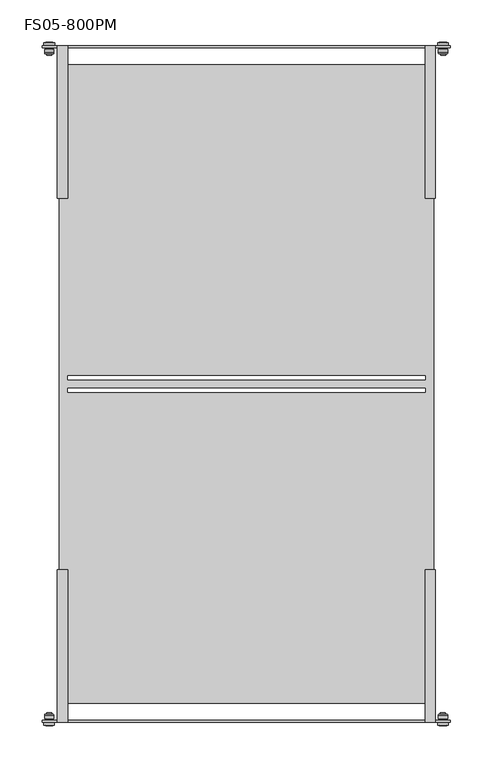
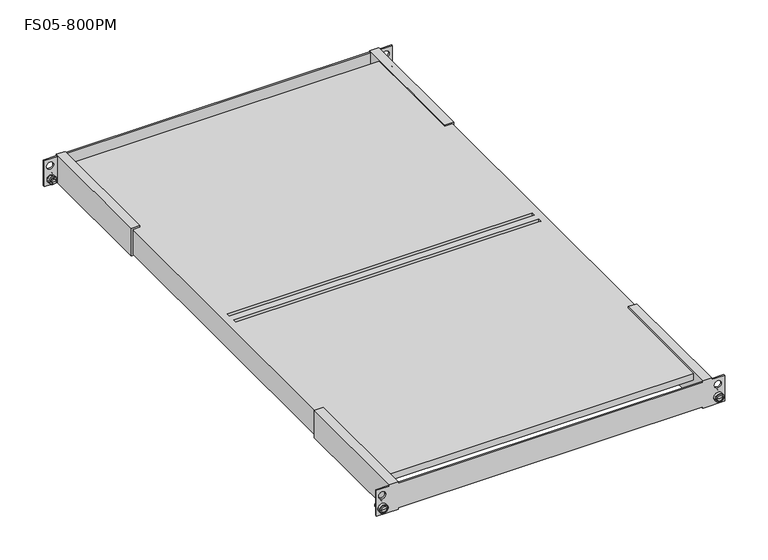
"""IFC4 building model written with IfcOpenShell, lengths in millimetres: proxy geometry, Полки стационарные усиленные : FS05-800PM."""

from ifc_helpers import new_model, si_unit, point, frame, origin, place, context, project, spatial, polyline, circle_curve, ellipse_curve, trimmed, source, transform, mapped, element, save
from ifc_brep_helpers import plane_surface, cylinder_surface, revolved_surface, advanced_brep


def fs05_800pm_aac56196(model_context):
    return source(origin(), model_context, "Body", "AdvancedBrep", [
        advanced_brep(
        [(232.5819993, -404.3499926, 10.0), (236.0759317, -404.3499926, 10.0), (229.0880669, -404.3499926, 10.0), (229.5820007, -388.7499968, 10.0), (235.5819979, -388.7499968, 10.0), (232.5819993, -388.7499968, 10.0), (229.5820007, -390.7999942, 10.0), (235.5819979, -390.7999942, 10.0), (228.0787333, -390.7999942, 10.0), (237.0852653, -390.7999942, 10.0), (227.082003, -391.7967245, 10.0), (238.0819955, -391.7967245, 10.0), (227.082003, -395.8, 10.0), (238.0819955, -395.8, 10.0), (228.4086476, -398.0, 10.0), (236.755351, -398.0, 10.0), (228.4086476, -400.0, 10.0), (236.755351, -400.0, 10.0), (226.3319978, -400.0, 10.0), (238.8320008, -400.0, 10.0), (226.3319978, -403.5000006, 10.0), (238.8320008, -403.5000006, 10.0), (227.2038342, -403.5000006, 10.0), (237.9601644, -403.5000006, 10.0)],
        [
            (0, 1),
            (1, 2, circle_curve(frame((232.5819993, -404.3499926, 10.0), z_axis=(0.0, -1.0, 0.0), x_axis=(1.0, 0.0, 0.0)), 3.4939324)),
            (2, 0),
            (2, 1, circle_curve(frame((232.5819993, -404.3499926, 10.0), z_axis=(0.0, -1.0, 0.0), x_axis=(1.0, 0.0, 0.0)), 3.4939324)),
            (3, 4, circle_curve(frame((232.5819993, -388.7499968, 10.0), z_axis=(0.0, 1.0, 0.0), x_axis=(1.0, 0.0, 0.0)), 2.9999986)),
            (4, 5),
            (5, 3),
            (4, 3, circle_curve(frame((232.5819993, -388.7499968, 10.0), z_axis=(0.0, 1.0, 0.0), x_axis=(1.0, 0.0, 0.0)), 2.9999986)),
            (6, 7, circle_curve(frame((232.5819993, -390.7999942, 10.0), z_axis=(0.0, 1.0, 0.0), x_axis=(1.0, 0.0, 0.0)), 2.9999986)),
            (7, 4),
            (3, 6),
            (7, 6, circle_curve(frame((232.5819993, -390.7999942, 10.0), z_axis=(0.0, 1.0, 0.0), x_axis=(1.0, 0.0, 0.0)), 2.9999986)),
            (8, 9, circle_curve(frame((232.5819993, -390.7999942, 10.0), z_axis=(0.0, 1.0, 0.0), x_axis=(1.0, 0.0, 0.0)), 4.503266)),
            (9, 7),
            (6, 8),
            (9, 8, circle_curve(frame((232.5819993, -390.7999942, 10.0), z_axis=(0.0, 1.0, 0.0), x_axis=(1.0, 0.0, 0.0)), 4.503266)),
            (10, 11, circle_curve(frame((232.5819993, -391.7967245, 10.0), z_axis=(0.0, 1.0, 0.0), x_axis=(1.0, 0.0, 0.0)), 5.4999962)),
            (11, 9, circle_curve(frame((237.0852653, -391.7967245, 10.0), z_axis=(0.0, 0.0, 1.0), x_axis=(-1.0, 0.0, 0.0)), 0.9967303)),
            (8, 10, circle_curve(frame((228.0787333, -391.7967245, 10.0), z_axis=(0.0, 0.0, 1.0), x_axis=(1.0, 0.0, 0.0)), 0.9967303)),
            (11, 10, circle_curve(frame((232.5819993, -391.7967245, 10.0), z_axis=(0.0, 1.0, 0.0), x_axis=(1.0, 0.0, 0.0)), 5.4999962)),
            (12, 13, circle_curve(frame((232.5819993, -395.8, 10.0), z_axis=(0.0, 1.0, 0.0), x_axis=(1.0, 0.0, 0.0)), 5.4999962)),
            (13, 11),
            (10, 12),
            (13, 12, circle_curve(frame((232.5819993, -395.8, 10.0), z_axis=(0.0, 1.0, 0.0), x_axis=(1.0, 0.0, 0.0)), 5.4999962)),
            (14, 15, circle_curve(frame((232.5819993, -398.0, 10.0), z_axis=(0.0, 1.0, 0.0), x_axis=(1.0, 0.0, 0.0)), 4.1733517)),
            (15, 13, circle_curve(frame((238.0820009, -397.3, 10.0), z_axis=(0.0, 0.0, -1.0), x_axis=(-1.0, 0.0, 0.0)), 1.5)),
            (12, 14, circle_curve(frame((227.0819977, -397.3, 10.0), z_axis=(0.0, 0.0, -1.0), x_axis=(1.0, 0.0, 0.0)), 1.5)),
            (15, 14, circle_curve(frame((232.5819993, -398.0, 10.0), z_axis=(0.0, 1.0, 0.0), x_axis=(1.0, 0.0, 0.0)), 4.1733517)),
            (16, 17, circle_curve(frame((232.5819993, -400.0, 10.0), z_axis=(0.0, 1.0, 0.0), x_axis=(1.0, 0.0, 0.0)), 4.1733517)),
            (17, 15),
            (14, 16),
            (17, 16, circle_curve(frame((232.5819993, -400.0, 10.0), z_axis=(0.0, 1.0, 0.0), x_axis=(1.0, 0.0, 0.0)), 4.1733517)),
            (18, 19, circle_curve(frame((232.5819993, -400.0, 10.0), z_axis=(0.0, 1.0, 0.0), x_axis=(1.0, 0.0, 0.0)), 6.2500015)),
            (19, 17),
            (16, 18),
            (19, 18, circle_curve(frame((232.5819993, -400.0, 10.0), z_axis=(0.0, 1.0, 0.0), x_axis=(1.0, 0.0, 0.0)), 6.2500015)),
            (20, 21, circle_curve(frame((232.5819993, -403.5000006, 10.0), z_axis=(0.0, 1.0, 0.0), x_axis=(1.0, 0.0, 0.0)), 6.2500015)),
            (21, 19),
            (18, 20),
            (21, 20, circle_curve(frame((232.5819993, -403.5000006, 10.0), z_axis=(0.0, 1.0, 0.0), x_axis=(1.0, 0.0, 0.0)), 6.2500015)),
            (22, 23, circle_curve(frame((232.5819993, -403.5000006, 10.0), z_axis=(0.0, 1.0, 0.0), x_axis=(1.0, 0.0, 0.0)), 5.3781651)),
            (23, 21),
            (20, 22),
            (23, 22, circle_curve(frame((232.5819993, -403.5000006, 10.0), z_axis=(0.0, 1.0, 0.0), x_axis=(1.0, 0.0, 0.0)), 5.3781651)),
            (1, 23, circle_curve(frame((236.0820009, -401.85, 10.0), z_axis=(0.0, 0.0, 1.0), x_axis=(-1.0, 0.0, 0.0)), 2.5)),
            (22, 2, circle_curve(frame((229.0819977, -401.85, 10.0), z_axis=(0.0, 0.0, 1.0), x_axis=(1.0, 0.0, 0.0)), 2.5)),
        ],
        [
            plane_surface(frame((232.5819993, -404.3499926, 10.0), z_axis=(0.0, -1.0, 0.0), x_axis=(1.0, 0.0, 0.0))),
            plane_surface(frame((232.5819993, -388.7499968, 10.0), z_axis=(0.0, 1.0, 0.0), x_axis=(1.0, 0.0, 0.0))),
            cylinder_surface(frame((232.5819993, 2209.0581012, 10.0), z_axis=(0.0, -1.0, 0.0), x_axis=(1.0, 0.0, 0.0)), 2.9999986),
            plane_surface(frame((232.5819993, -390.7999942, 10.0), z_axis=(0.0, 1.0, 0.0), x_axis=(1.0, 0.0, 0.0))),
            revolved_surface(trimmed(ellipse_curve(frame((237.0852653, -391.7967245, 10.0), z_axis=(0.0, 0.0, -1.0), x_axis=(-1.0, 0.0, 0.0)), 0.9967303, 0.9967303), [point((237.0852653, -390.7999942, 10.0))], [point((238.0819955, -391.7967245, 10.0))], True, "CARTESIAN"), (232.5819993, 2209.0581012, 10.0), (0.0, -1.0, 0.0)),
            cylinder_surface(frame((232.5819993, 2209.0581012, 10.0), z_axis=(0.0, -1.0, 0.0), x_axis=(1.0, 0.0, 0.0)), 5.4999962),
            revolved_surface(trimmed(ellipse_curve(frame((238.0820009, -397.3, 10.0), z_axis=(0.0, 0.0, 1.0), x_axis=(-1.0, 0.0, 0.0)), 1.5, 1.5), [point((238.0819955, -395.8, 10.0))], [point((236.755351, -398.0, 10.0))], True, "CARTESIAN"), (232.5819993, 2209.0581012, 10.0), (0.0, -1.0, 0.0)),
            cylinder_surface(frame((232.5819993, 2209.0581012, 10.0), z_axis=(0.0, -1.0, 0.0), x_axis=(1.0, 0.0, 0.0)), 4.1733517),
            plane_surface(frame((232.5819993, -400.0, 10.0), z_axis=(0.0, 1.0, 0.0), x_axis=(1.0, 0.0, 0.0))),
            cylinder_surface(frame((232.5819993, 2209.0581012, 10.0), z_axis=(0.0, -1.0, 0.0), x_axis=(1.0, 0.0, 0.0)), 6.2500015),
            plane_surface(frame((232.5819993, -403.5000006, 10.0), z_axis=(0.0, -1.0, 0.0), x_axis=(1.0, 0.0, 0.0))),
            revolved_surface(trimmed(ellipse_curve(frame((236.0820009, -401.85, 10.0), z_axis=(0.0, 0.0, -1.0), x_axis=(-1.0, 0.0, 0.0)), 2.5, 2.5), [point((237.9601644, -403.5000006, 10.0))], [point((236.0759317, -404.3499926, 10.0))], True, "CARTESIAN"), (232.5819993, 2209.0581012, 10.0), (0.0, -1.0, 0.0)),
        ],
        [
            (0, [[1, 2, 3]]),
            (0, [[-3, 4, -1]]),
            (1, [[5, 6, 7]]),
            (1, [[8, -7, -6]]),
            (2, [[9, 10, -5, 11]]),
            (2, [[12, -11, -8, -10]]),
            (3, [[13, 14, -9, 15]]),
            (3, [[16, -15, -12, -14]]),
            (4, [[17, 18, -13, 19]]),
            (4, [[20, -19, -16, -18]]),
            (5, [[21, 22, -17, 23]]),
            (5, [[24, -23, -20, -22]]),
            (6, [[25, 26, -21, 27]]),
            (6, [[28, -27, -24, -26]]),
            (7, [[29, 30, -25, 31]]),
            (7, [[32, -31, -28, -30]]),
            (8, [[33, 34, -29, 35]]),
            (8, [[36, -35, -32, -34]]),
            (9, [[37, 38, -33, 39]]),
            (9, [[40, -39, -36, -38]]),
            (10, [[41, 42, -37, 43]]),
            (10, [[44, -43, -40, -42]]),
            (11, [[-2, 45, -41, 46]]),
            (11, [[-4, -46, -44, -45]]),
        ],
    ),
        advanced_brep(
        [(-233.3319993, -404.3499926, 10.0), (-229.8380669, -404.3499926, 10.0), (-236.8259317, -404.3499926, 10.0), (-230.3320007, -388.7499968, 10.0), (-233.3319993, -388.7499968, 10.0), (-236.3319979, -388.7499968, 10.0), (-230.3320007, -390.7999942, 10.0), (-236.3319979, -390.7999942, 10.0), (-228.8287333, -390.7999942, 10.0), (-237.8352653, -390.7999942, 10.0), (-227.832003, -391.7967245, 10.0), (-238.8319955, -391.7967245, 10.0), (-227.832003, -395.8, 10.0), (-238.8319955, -395.8, 10.0), (-229.1586476, -398.0, 10.0), (-237.505351, -398.0, 10.0), (-229.1586476, -400.0, 10.0), (-237.505351, -400.0, 10.0), (-227.0819978, -400.0, 10.0), (-239.5820008, -400.0, 10.0), (-227.0819978, -403.5000006, 10.0), (-239.5820008, -403.5000006, 10.0), (-227.9538342, -403.5000006, 10.0), (-238.7101644, -403.5000006, 10.0)],
        [
            (0, 1),
            (1, 2, circle_curve(frame((-233.3319993, -404.3499926, 10.0), z_axis=(0.0, -1.0, 0.0), x_axis=(-1.0, 0.0, 0.0)), 3.4939324)),
            (2, 0),
            (2, 1, circle_curve(frame((-233.3319993, -404.3499926, 10.0), z_axis=(0.0, -1.0, 0.0), x_axis=(-1.0, 0.0, 0.0)), 3.4939324)),
            (3, 4),
            (4, 5),
            (5, 3, circle_curve(frame((-233.3319993, -388.7499968, 10.0), z_axis=(0.0, 1.0, 0.0), x_axis=(-1.0, 0.0, 0.0)), 2.9999986)),
            (3, 5, circle_curve(frame((-233.3319993, -388.7499968, 10.0), z_axis=(0.0, 1.0, 0.0), x_axis=(-1.0, 0.0, 0.0)), 2.9999986)),
            (6, 3),
            (5, 7),
            (7, 6, circle_curve(frame((-233.3319993, -390.7999942, 10.0), z_axis=(0.0, 1.0, 0.0), x_axis=(-1.0, 0.0, 0.0)), 2.9999986)),
            (6, 7, circle_curve(frame((-233.3319993, -390.7999942, 10.0), z_axis=(0.0, 1.0, 0.0), x_axis=(-1.0, 0.0, 0.0)), 2.9999986)),
            (8, 6),
            (7, 9),
            (9, 8, circle_curve(frame((-233.3319993, -390.7999942, 10.0), z_axis=(0.0, 1.0, 0.0), x_axis=(-1.0, 0.0, 0.0)), 4.503266)),
            (8, 9, circle_curve(frame((-233.3319993, -390.7999942, 10.0), z_axis=(0.0, 1.0, 0.0), x_axis=(-1.0, 0.0, 0.0)), 4.503266)),
            (10, 8, circle_curve(frame((-228.8287333, -391.7967245, 10.0), z_axis=(0.0, 0.0, 1.0), x_axis=(-1.0, 0.0, 0.0)), 0.9967303)),
            (9, 11, circle_curve(frame((-237.8352653, -391.7967245, 10.0), z_axis=(0.0, 0.0, 1.0), x_axis=(1.0, 0.0, 0.0)), 0.9967303)),
            (11, 10, circle_curve(frame((-233.3319993, -391.7967245, 10.0), z_axis=(0.0, 1.0, 0.0), x_axis=(-1.0, 0.0, 0.0)), 5.4999962)),
            (10, 11, circle_curve(frame((-233.3319993, -391.7967245, 10.0), z_axis=(0.0, 1.0, 0.0), x_axis=(-1.0, 0.0, 0.0)), 5.4999962)),
            (12, 10),
            (11, 13),
            (13, 12, circle_curve(frame((-233.3319993, -395.8, 10.0), z_axis=(0.0, 1.0, 0.0), x_axis=(-1.0, 0.0, 0.0)), 5.4999962)),
            (12, 13, circle_curve(frame((-233.3319993, -395.8, 10.0), z_axis=(0.0, 1.0, 0.0), x_axis=(-1.0, 0.0, 0.0)), 5.4999962)),
            (14, 12, circle_curve(frame((-227.8319977, -397.3, 10.0), z_axis=(0.0, 0.0, -1.0), x_axis=(-1.0, 0.0, 0.0)), 1.5)),
            (13, 15, circle_curve(frame((-238.8320009, -397.3, 10.0), z_axis=(0.0, 0.0, -1.0), x_axis=(1.0, 0.0, 0.0)), 1.5)),
            (15, 14, circle_curve(frame((-233.3319993, -398.0, 10.0), z_axis=(0.0, 1.0, 0.0), x_axis=(-1.0, 0.0, 0.0)), 4.1733517)),
            (14, 15, circle_curve(frame((-233.3319993, -398.0, 10.0), z_axis=(0.0, 1.0, 0.0), x_axis=(-1.0, 0.0, 0.0)), 4.1733517)),
            (16, 14),
            (15, 17),
            (17, 16, circle_curve(frame((-233.3319993, -400.0, 10.0), z_axis=(0.0, 1.0, 0.0), x_axis=(-1.0, 0.0, 0.0)), 4.1733517)),
            (16, 17, circle_curve(frame((-233.3319993, -400.0, 10.0), z_axis=(0.0, 1.0, 0.0), x_axis=(-1.0, 0.0, 0.0)), 4.1733517)),
            (18, 16),
            (17, 19),
            (19, 18, circle_curve(frame((-233.3319993, -400.0, 10.0), z_axis=(0.0, 1.0, 0.0), x_axis=(-1.0, 0.0, 0.0)), 6.2500015)),
            (18, 19, circle_curve(frame((-233.3319993, -400.0, 10.0), z_axis=(0.0, 1.0, 0.0), x_axis=(-1.0, 0.0, 0.0)), 6.2500015)),
            (20, 18),
            (19, 21),
            (21, 20, circle_curve(frame((-233.3319993, -403.5000006, 10.0), z_axis=(0.0, 1.0, 0.0), x_axis=(-1.0, 0.0, 0.0)), 6.2500015)),
            (20, 21, circle_curve(frame((-233.3319993, -403.5000006, 10.0), z_axis=(0.0, 1.0, 0.0), x_axis=(-1.0, 0.0, 0.0)), 6.2500015)),
            (22, 20),
            (21, 23),
            (23, 22, circle_curve(frame((-233.3319993, -403.5000006, 10.0), z_axis=(0.0, 1.0, 0.0), x_axis=(-1.0, 0.0, 0.0)), 5.3781651)),
            (22, 23, circle_curve(frame((-233.3319993, -403.5000006, 10.0), z_axis=(0.0, 1.0, 0.0), x_axis=(-1.0, 0.0, 0.0)), 5.3781651)),
            (1, 22, circle_curve(frame((-229.8319977, -401.85, 10.0), z_axis=(0.0, 0.0, 1.0), x_axis=(-1.0, 0.0, 0.0)), 2.5)),
            (23, 2, circle_curve(frame((-236.8320009, -401.85, 10.0), z_axis=(0.0, 0.0, 1.0), x_axis=(1.0, 0.0, 0.0)), 2.5)),
        ],
        [
            plane_surface(frame((-233.3319993, -404.3499926, 10.0), z_axis=(0.0, -1.0, 0.0), x_axis=(-1.0, 0.0, 0.0))),
            plane_surface(frame((-233.3319993, -388.7499968, 10.0), z_axis=(0.0, 1.0, 0.0), x_axis=(-1.0, 0.0, 0.0))),
            cylinder_surface(frame((-233.3319993, 2209.0581012, 10.0), z_axis=(0.0, -1.0, 0.0), x_axis=(-1.0, 0.0, 0.0)), 2.9999986),
            plane_surface(frame((-233.3319993, -390.7999942, 10.0), z_axis=(0.0, 1.0, 0.0), x_axis=(-1.0, 0.0, 0.0))),
            revolved_surface(trimmed(ellipse_curve(frame((-237.8352653, -391.7967245, 10.0), z_axis=(0.0, 0.0, 1.0), x_axis=(1.0, 0.0, 0.0)), 0.9967303, 0.9967303), [point((-237.8352653, -390.7999942, 10.0))], [point((-238.8319955, -391.7967245, 10.0))], True, "CARTESIAN"), (-233.3319993, 2209.0581012, 10.0), (0.0, -1.0, 0.0)),
            cylinder_surface(frame((-233.3319993, 2209.0581012, 10.0), z_axis=(0.0, -1.0, 0.0), x_axis=(-1.0, 0.0, 0.0)), 5.4999962),
            revolved_surface(trimmed(ellipse_curve(frame((-238.8320009, -397.3, 10.0), z_axis=(0.0, 0.0, -1.0), x_axis=(1.0, 0.0, 0.0)), 1.5, 1.5), [point((-238.8319955, -395.8, 10.0))], [point((-237.505351, -398.0, 10.0))], True, "CARTESIAN"), (-233.3319993, 2209.0581012, 10.0), (0.0, -1.0, 0.0)),
            cylinder_surface(frame((-233.3319993, 2209.0581012, 10.0), z_axis=(0.0, -1.0, 0.0), x_axis=(-1.0, 0.0, 0.0)), 4.1733517),
            plane_surface(frame((-233.3319993, -400.0, 10.0), z_axis=(0.0, 1.0, 0.0), x_axis=(-1.0, 0.0, 0.0))),
            cylinder_surface(frame((-233.3319993, 2209.0581012, 10.0), z_axis=(0.0, -1.0, 0.0), x_axis=(-1.0, 0.0, 0.0)), 6.2500015),
            plane_surface(frame((-233.3319993, -403.5000006, 10.0), z_axis=(0.0, -1.0, 0.0), x_axis=(-1.0, 0.0, 0.0))),
            revolved_surface(trimmed(ellipse_curve(frame((-236.8320009, -401.85, 10.0), z_axis=(0.0, 0.0, 1.0), x_axis=(1.0, 0.0, 0.0)), 2.5, 2.5), [point((-238.7101644, -403.5000006, 10.0))], [point((-236.8259317, -404.3499926, 10.0))], True, "CARTESIAN"), (-233.3319993, 2209.0581012, 10.0), (0.0, -1.0, 0.0)),
        ],
        [
            (0, [[1, 2, 3]]),
            (0, [[-3, 4, -1]]),
            (1, [[5, 6, 7]]),
            (1, [[-6, -5, 8]]),
            (2, [[9, -7, 10, 11]]),
            (2, [[-10, -8, -9, 12]]),
            (3, [[13, -11, 14, 15]]),
            (3, [[-14, -12, -13, 16]]),
            (4, [[17, -15, 18, 19]]),
            (4, [[-18, -16, -17, 20]]),
            (5, [[21, -19, 22, 23]]),
            (5, [[-22, -20, -21, 24]]),
            (6, [[25, -23, 26, 27]]),
            (6, [[-26, -24, -25, 28]]),
            (7, [[29, -27, 30, 31]]),
            (7, [[-30, -28, -29, 32]]),
            (8, [[33, -31, 34, 35]]),
            (8, [[-34, -32, -33, 36]]),
            (9, [[37, -35, 38, 39]]),
            (9, [[-38, -36, -37, 40]]),
            (10, [[41, -39, 42, 43]]),
            (10, [[-42, -40, -41, 44]]),
            (11, [[45, -43, 46, -2]]),
            (11, [[-46, -44, -45, -4]]),
        ],
    ),
        advanced_brep(
        [(232.7069993, 404.3499926, 10.0), (229.2130669, 404.3499926, 10.0), (236.2009317, 404.3499926, 10.0), (229.7070007, 388.7499968, 10.0), (232.7069993, 388.7499968, 10.0), (235.7069979, 388.7499968, 10.0), (229.7070007, 390.7999942, 10.0), (235.7069979, 390.7999942, 10.0), (228.2037333, 390.7999942, 10.0), (237.2102653, 390.7999942, 10.0), (227.207003, 391.7967245, 10.0), (238.2069955, 391.7967245, 10.0), (227.207003, 395.8, 10.0), (238.2069955, 395.8, 10.0), (228.5336476, 398.0, 10.0), (236.880351, 398.0, 10.0), (228.5336476, 400.0, 10.0), (236.880351, 400.0, 10.0), (226.4569978, 400.0, 10.0), (238.9570008, 400.0, 10.0), (226.4569978, 403.5000006, 10.0), (238.9570008, 403.5000006, 10.0), (227.3288342, 403.5000006, 10.0), (238.0851644, 403.5000006, 10.0)],
        [
            (0, 1),
            (1, 2, circle_curve(frame((232.7069993, 404.3499926, 10.0), z_axis=(0.0, 1.0, 0.0), x_axis=(1.0, 0.0, 0.0)), 3.4939324)),
            (2, 0),
            (2, 1, circle_curve(frame((232.7069993, 404.3499926, 10.0), z_axis=(0.0, 1.0, 0.0), x_axis=(1.0, 0.0, 0.0)), 3.4939324)),
            (3, 4),
            (4, 5),
            (5, 3, circle_curve(frame((232.7069993, 388.7499968, 10.0), z_axis=(0.0, -1.0, 0.0), x_axis=(1.0, 0.0, 0.0)), 2.9999986)),
            (3, 5, circle_curve(frame((232.7069993, 388.7499968, 10.0), z_axis=(0.0, -1.0, 0.0), x_axis=(1.0, 0.0, 0.0)), 2.9999986)),
            (6, 3),
            (5, 7),
            (7, 6, circle_curve(frame((232.7069993, 390.7999942, 10.0), z_axis=(0.0, -1.0, 0.0), x_axis=(1.0, 0.0, 0.0)), 2.9999986)),
            (6, 7, circle_curve(frame((232.7069993, 390.7999942, 10.0), z_axis=(0.0, -1.0, 0.0), x_axis=(1.0, 0.0, 0.0)), 2.9999986)),
            (8, 6),
            (7, 9),
            (9, 8, circle_curve(frame((232.7069993, 390.7999942, 10.0), z_axis=(0.0, -1.0, 0.0), x_axis=(1.0, 0.0, 0.0)), 4.503266)),
            (8, 9, circle_curve(frame((232.7069993, 390.7999942, 10.0), z_axis=(0.0, -1.0, 0.0), x_axis=(1.0, 0.0, 0.0)), 4.503266)),
            (10, 8, circle_curve(frame((228.2037333, 391.7967245, 10.0), z_axis=(0.0, 0.0, 1.0), x_axis=(1.0, 0.0, 0.0)), 0.9967303)),
            (9, 11, circle_curve(frame((237.2102653, 391.7967245, 10.0), z_axis=(0.0, 0.0, 1.0), x_axis=(-1.0, 0.0, 0.0)), 0.9967303)),
            (11, 10, circle_curve(frame((232.7069993, 391.7967245, 10.0), z_axis=(0.0, -1.0, 0.0), x_axis=(1.0, 0.0, 0.0)), 5.4999962)),
            (10, 11, circle_curve(frame((232.7069993, 391.7967245, 10.0), z_axis=(0.0, -1.0, 0.0), x_axis=(1.0, 0.0, 0.0)), 5.4999962)),
            (12, 10),
            (11, 13),
            (13, 12, circle_curve(frame((232.7069993, 395.8, 10.0), z_axis=(0.0, -1.0, 0.0), x_axis=(1.0, 0.0, 0.0)), 5.4999962)),
            (12, 13, circle_curve(frame((232.7069993, 395.8, 10.0), z_axis=(0.0, -1.0, 0.0), x_axis=(1.0, 0.0, 0.0)), 5.4999962)),
            (14, 12, circle_curve(frame((227.2069977, 397.3, 10.0), z_axis=(0.0, 0.0, -1.0), x_axis=(1.0, 0.0, 0.0)), 1.5)),
            (13, 15, circle_curve(frame((238.2070009, 397.3, 10.0), z_axis=(0.0, 0.0, -1.0), x_axis=(-1.0, 0.0, 0.0)), 1.5)),
            (15, 14, circle_curve(frame((232.7069993, 398.0, 10.0), z_axis=(0.0, -1.0, 0.0), x_axis=(1.0, 0.0, 0.0)), 4.1733517)),
            (14, 15, circle_curve(frame((232.7069993, 398.0, 10.0), z_axis=(0.0, -1.0, 0.0), x_axis=(1.0, 0.0, 0.0)), 4.1733517)),
            (16, 14),
            (15, 17),
            (17, 16, circle_curve(frame((232.7069993, 400.0, 10.0), z_axis=(0.0, -1.0, 0.0), x_axis=(1.0, 0.0, 0.0)), 4.1733517)),
            (16, 17, circle_curve(frame((232.7069993, 400.0, 10.0), z_axis=(0.0, -1.0, 0.0), x_axis=(1.0, 0.0, 0.0)), 4.1733517)),
            (18, 16),
            (17, 19),
            (19, 18, circle_curve(frame((232.7069993, 400.0, 10.0), z_axis=(0.0, -1.0, 0.0), x_axis=(1.0, 0.0, 0.0)), 6.2500015)),
            (18, 19, circle_curve(frame((232.7069993, 400.0, 10.0), z_axis=(0.0, -1.0, 0.0), x_axis=(1.0, 0.0, 0.0)), 6.2500015)),
            (20, 18),
            (19, 21),
            (21, 20, circle_curve(frame((232.7069993, 403.5000006, 10.0), z_axis=(0.0, -1.0, 0.0), x_axis=(1.0, 0.0, 0.0)), 6.2500015)),
            (20, 21, circle_curve(frame((232.7069993, 403.5000006, 10.0), z_axis=(0.0, -1.0, 0.0), x_axis=(1.0, 0.0, 0.0)), 6.2500015)),
            (22, 20),
            (21, 23),
            (23, 22, circle_curve(frame((232.7069993, 403.5000006, 10.0), z_axis=(0.0, -1.0, 0.0), x_axis=(1.0, 0.0, 0.0)), 5.3781651)),
            (22, 23, circle_curve(frame((232.7069993, 403.5000006, 10.0), z_axis=(0.0, -1.0, 0.0), x_axis=(1.0, 0.0, 0.0)), 5.3781651)),
            (1, 22, circle_curve(frame((229.2069977, 401.85, 10.0), z_axis=(0.0, 0.0, 1.0), x_axis=(1.0, 0.0, 0.0)), 2.5)),
            (23, 2, circle_curve(frame((236.2070009, 401.85, 10.0), z_axis=(0.0, 0.0, 1.0), x_axis=(-1.0, 0.0, 0.0)), 2.5)),
        ],
        [
            plane_surface(frame((232.7069993, 404.3499926, 10.0), z_axis=(0.0, 1.0, 0.0), x_axis=(1.0, 0.0, 0.0))),
            plane_surface(frame((232.7069993, 388.7499968, 10.0), z_axis=(0.0, -1.0, 0.0), x_axis=(1.0, 0.0, 0.0))),
            cylinder_surface(frame((232.7069993, -2209.0581012, 10.0), z_axis=(0.0, 1.0, 0.0), x_axis=(1.0, 0.0, 0.0)), 2.9999986),
            plane_surface(frame((232.7069993, 390.7999942, 10.0), z_axis=(0.0, -1.0, 0.0), x_axis=(1.0, 0.0, 0.0))),
            revolved_surface(trimmed(ellipse_curve(frame((237.2102653, 391.7967245, 10.0), z_axis=(0.0, 0.0, 1.0), x_axis=(-1.0, 0.0, 0.0)), 0.9967303, 0.9967303), [point((237.2102653, 390.7999942, 10.0))], [point((238.2069955, 391.7967245, 10.0))], True, "CARTESIAN"), (232.7069993, -2209.0581012, 10.0), (0.0, 1.0, 0.0)),
            cylinder_surface(frame((232.7069993, -2209.0581012, 10.0), z_axis=(0.0, 1.0, 0.0), x_axis=(1.0, 0.0, 0.0)), 5.4999962),
            revolved_surface(trimmed(ellipse_curve(frame((238.2070009, 397.3, 10.0), z_axis=(0.0, 0.0, -1.0), x_axis=(-1.0, 0.0, 0.0)), 1.5, 1.5), [point((238.2069955, 395.8, 10.0))], [point((236.880351, 398.0, 10.0))], True, "CARTESIAN"), (232.7069993, -2209.0581012, 10.0), (0.0, 1.0, 0.0)),
            cylinder_surface(frame((232.7069993, -2209.0581012, 10.0), z_axis=(0.0, 1.0, 0.0), x_axis=(1.0, 0.0, 0.0)), 4.1733517),
            plane_surface(frame((232.7069993, 400.0, 10.0), z_axis=(0.0, -1.0, 0.0), x_axis=(1.0, 0.0, 0.0))),
            cylinder_surface(frame((232.7069993, -2209.0581012, 10.0), z_axis=(0.0, 1.0, 0.0), x_axis=(1.0, 0.0, 0.0)), 6.2500015),
            plane_surface(frame((232.7069993, 403.5000006, 10.0), z_axis=(0.0, 1.0, 0.0), x_axis=(1.0, 0.0, 0.0))),
            revolved_surface(trimmed(ellipse_curve(frame((236.2070009, 401.85, 10.0), z_axis=(0.0, 0.0, 1.0), x_axis=(-1.0, 0.0, 0.0)), 2.5, 2.5), [point((238.0851644, 403.5000006, 10.0))], [point((236.2009317, 404.3499926, 10.0))], True, "CARTESIAN"), (232.7069993, -2209.0581012, 10.0), (0.0, 1.0, 0.0)),
        ],
        [
            (0, [[1, 2, 3]]),
            (0, [[-3, 4, -1]]),
            (1, [[5, 6, 7]]),
            (1, [[-6, -5, 8]]),
            (2, [[9, -7, 10, 11]]),
            (2, [[-10, -8, -9, 12]]),
            (3, [[13, -11, 14, 15]]),
            (3, [[-14, -12, -13, 16]]),
            (4, [[17, -15, 18, 19]]),
            (4, [[-18, -16, -17, 20]]),
            (5, [[21, -19, 22, 23]]),
            (5, [[-22, -20, -21, 24]]),
            (6, [[25, -23, 26, 27]]),
            (6, [[-26, -24, -25, 28]]),
            (7, [[29, -27, 30, 31]]),
            (7, [[-30, -28, -29, 32]]),
            (8, [[33, -31, 34, 35]]),
            (8, [[-34, -32, -33, 36]]),
            (9, [[37, -35, 38, 39]]),
            (9, [[-38, -36, -37, 40]]),
            (10, [[41, -39, 42, 43]]),
            (10, [[-42, -40, -41, 44]]),
            (11, [[45, -43, 46, -2]]),
            (11, [[-46, -44, -45, -4]]),
        ],
    ),
        advanced_brep(
        [(-233.2069993, 404.3499926, 10.0), (-236.7009317, 404.3499926, 10.0), (-229.7130669, 404.3499926, 10.0), (-230.2070007, 388.7499968, 10.0), (-236.2069979, 388.7499968, 10.0), (-233.2069993, 388.7499968, 10.0), (-230.2070007, 390.7999942, 10.0), (-236.2069979, 390.7999942, 10.0), (-228.7037333, 390.7999942, 10.0), (-237.7102653, 390.7999942, 10.0), (-227.707003, 391.7967245, 10.0), (-238.7069955, 391.7967245, 10.0), (-227.707003, 395.8, 10.0), (-238.7069955, 395.8, 10.0), (-229.0336476, 398.0, 10.0), (-237.380351, 398.0, 10.0), (-229.0336476, 400.0, 10.0), (-237.380351, 400.0, 10.0), (-226.9569978, 400.0, 10.0), (-239.4570008, 400.0, 10.0), (-226.9569978, 403.5000006, 10.0), (-239.4570008, 403.5000006, 10.0), (-227.8288342, 403.5000006, 10.0), (-238.5851644, 403.5000006, 10.0)],
        [
            (0, 1),
            (1, 2, circle_curve(frame((-233.2069993, 404.3499926, 10.0), z_axis=(0.0, 1.0, 0.0), x_axis=(-1.0, 0.0, 0.0)), 3.4939324)),
            (2, 0),
            (2, 1, circle_curve(frame((-233.2069993, 404.3499926, 10.0), z_axis=(0.0, 1.0, 0.0), x_axis=(-1.0, 0.0, 0.0)), 3.4939324)),
            (3, 4, circle_curve(frame((-233.2069993, 388.7499968, 10.0), z_axis=(0.0, -1.0, 0.0), x_axis=(-1.0, 0.0, 0.0)), 2.9999986)),
            (4, 5),
            (5, 3),
            (4, 3, circle_curve(frame((-233.2069993, 388.7499968, 10.0), z_axis=(0.0, -1.0, 0.0), x_axis=(-1.0, 0.0, 0.0)), 2.9999986)),
            (6, 7, circle_curve(frame((-233.2069993, 390.7999942, 10.0), z_axis=(0.0, -1.0, 0.0), x_axis=(-1.0, 0.0, 0.0)), 2.9999986)),
            (7, 4),
            (3, 6),
            (7, 6, circle_curve(frame((-233.2069993, 390.7999942, 10.0), z_axis=(0.0, -1.0, 0.0), x_axis=(-1.0, 0.0, 0.0)), 2.9999986)),
            (8, 9, circle_curve(frame((-233.2069993, 390.7999942, 10.0), z_axis=(0.0, -1.0, 0.0), x_axis=(-1.0, 0.0, 0.0)), 4.503266)),
            (9, 7),
            (6, 8),
            (9, 8, circle_curve(frame((-233.2069993, 390.7999942, 10.0), z_axis=(0.0, -1.0, 0.0), x_axis=(-1.0, 0.0, 0.0)), 4.503266)),
            (10, 11, circle_curve(frame((-233.2069993, 391.7967245, 10.0), z_axis=(0.0, -1.0, 0.0), x_axis=(-1.0, 0.0, 0.0)), 5.4999962)),
            (11, 9, circle_curve(frame((-237.7102653, 391.7967245, 10.0), z_axis=(0.0, 0.0, 1.0), x_axis=(1.0, 0.0, 0.0)), 0.9967303)),
            (8, 10, circle_curve(frame((-228.7037333, 391.7967245, 10.0), z_axis=(0.0, 0.0, 1.0), x_axis=(-1.0, 0.0, 0.0)), 0.9967303)),
            (11, 10, circle_curve(frame((-233.2069993, 391.7967245, 10.0), z_axis=(0.0, -1.0, 0.0), x_axis=(-1.0, 0.0, 0.0)), 5.4999962)),
            (12, 13, circle_curve(frame((-233.2069993, 395.8, 10.0), z_axis=(0.0, -1.0, 0.0), x_axis=(-1.0, 0.0, 0.0)), 5.4999962)),
            (13, 11),
            (10, 12),
            (13, 12, circle_curve(frame((-233.2069993, 395.8, 10.0), z_axis=(0.0, -1.0, 0.0), x_axis=(-1.0, 0.0, 0.0)), 5.4999962)),
            (14, 15, circle_curve(frame((-233.2069993, 398.0, 10.0), z_axis=(0.0, -1.0, 0.0), x_axis=(-1.0, 0.0, 0.0)), 4.1733517)),
            (15, 13, circle_curve(frame((-238.7070009, 397.3, 10.0), z_axis=(0.0, 0.0, -1.0), x_axis=(1.0, 0.0, 0.0)), 1.5)),
            (12, 14, circle_curve(frame((-227.7069977, 397.3, 10.0), z_axis=(0.0, 0.0, -1.0), x_axis=(-1.0, 0.0, 0.0)), 1.5)),
            (15, 14, circle_curve(frame((-233.2069993, 398.0, 10.0), z_axis=(0.0, -1.0, 0.0), x_axis=(-1.0, 0.0, 0.0)), 4.1733517)),
            (16, 17, circle_curve(frame((-233.2069993, 400.0, 10.0), z_axis=(0.0, -1.0, 0.0), x_axis=(-1.0, 0.0, 0.0)), 4.1733517)),
            (17, 15),
            (14, 16),
            (17, 16, circle_curve(frame((-233.2069993, 400.0, 10.0), z_axis=(0.0, -1.0, 0.0), x_axis=(-1.0, 0.0, 0.0)), 4.1733517)),
            (18, 19, circle_curve(frame((-233.2069993, 400.0, 10.0), z_axis=(0.0, -1.0, 0.0), x_axis=(-1.0, 0.0, 0.0)), 6.2500015)),
            (19, 17),
            (16, 18),
            (19, 18, circle_curve(frame((-233.2069993, 400.0, 10.0), z_axis=(0.0, -1.0, 0.0), x_axis=(-1.0, 0.0, 0.0)), 6.2500015)),
            (20, 21, circle_curve(frame((-233.2069993, 403.5000006, 10.0), z_axis=(0.0, -1.0, 0.0), x_axis=(-1.0, 0.0, 0.0)), 6.2500015)),
            (21, 19),
            (18, 20),
            (21, 20, circle_curve(frame((-233.2069993, 403.5000006, 10.0), z_axis=(0.0, -1.0, 0.0), x_axis=(-1.0, 0.0, 0.0)), 6.2500015)),
            (22, 23, circle_curve(frame((-233.2069993, 403.5000006, 10.0), z_axis=(0.0, -1.0, 0.0), x_axis=(-1.0, 0.0, 0.0)), 5.3781651)),
            (23, 21),
            (20, 22),
            (23, 22, circle_curve(frame((-233.2069993, 403.5000006, 10.0), z_axis=(0.0, -1.0, 0.0), x_axis=(-1.0, 0.0, 0.0)), 5.3781651)),
            (1, 23, circle_curve(frame((-236.7070009, 401.85, 10.0), z_axis=(0.0, 0.0, 1.0), x_axis=(1.0, 0.0, 0.0)), 2.5)),
            (22, 2, circle_curve(frame((-229.7069977, 401.85, 10.0), z_axis=(0.0, 0.0, 1.0), x_axis=(-1.0, 0.0, 0.0)), 2.5)),
        ],
        [
            plane_surface(frame((-233.2069993, 404.3499926, 10.0), z_axis=(0.0, 1.0, 0.0), x_axis=(-1.0, 0.0, 0.0))),
            plane_surface(frame((-233.2069993, 388.7499968, 10.0), z_axis=(0.0, -1.0, 0.0), x_axis=(-1.0, 0.0, 0.0))),
            cylinder_surface(frame((-233.2069993, -2209.0581012, 10.0), z_axis=(0.0, 1.0, 0.0), x_axis=(-1.0, 0.0, 0.0)), 2.9999986),
            plane_surface(frame((-233.2069993, 390.7999942, 10.0), z_axis=(0.0, -1.0, 0.0), x_axis=(-1.0, 0.0, 0.0))),
            revolved_surface(trimmed(ellipse_curve(frame((-237.7102653, 391.7967245, 10.0), z_axis=(0.0, 0.0, -1.0), x_axis=(1.0, 0.0, 0.0)), 0.9967303, 0.9967303), [point((-237.7102653, 390.7999942, 10.0))], [point((-238.7069955, 391.7967245, 10.0))], True, "CARTESIAN"), (-233.2069993, -2209.0581012, 10.0), (0.0, 1.0, 0.0)),
            cylinder_surface(frame((-233.2069993, -2209.0581012, 10.0), z_axis=(0.0, 1.0, 0.0), x_axis=(-1.0, 0.0, 0.0)), 5.4999962),
            revolved_surface(trimmed(ellipse_curve(frame((-238.7070009, 397.3, 10.0), z_axis=(0.0, 0.0, 1.0), x_axis=(1.0, 0.0, 0.0)), 1.5, 1.5), [point((-238.7069955, 395.8, 10.0))], [point((-237.380351, 398.0, 10.0))], True, "CARTESIAN"), (-233.2069993, -2209.0581012, 10.0), (0.0, 1.0, 0.0)),
            cylinder_surface(frame((-233.2069993, -2209.0581012, 10.0), z_axis=(0.0, 1.0, 0.0), x_axis=(-1.0, 0.0, 0.0)), 4.1733517),
            plane_surface(frame((-233.2069993, 400.0, 10.0), z_axis=(0.0, -1.0, 0.0), x_axis=(-1.0, 0.0, 0.0))),
            cylinder_surface(frame((-233.2069993, -2209.0581012, 10.0), z_axis=(0.0, 1.0, 0.0), x_axis=(-1.0, 0.0, 0.0)), 6.2500015),
            plane_surface(frame((-233.2069993, 403.5000006, 10.0), z_axis=(0.0, 1.0, 0.0), x_axis=(-1.0, 0.0, 0.0))),
            revolved_surface(trimmed(ellipse_curve(frame((-236.7070009, 401.85, 10.0), z_axis=(0.0, 0.0, -1.0), x_axis=(1.0, 0.0, 0.0)), 2.5, 2.5), [point((-238.5851644, 403.5000006, 10.0))], [point((-236.7009317, 404.3499926, 10.0))], True, "CARTESIAN"), (-233.2069993, -2209.0581012, 10.0), (0.0, 1.0, 0.0)),
        ],
        [
            (0, [[1, 2, 3]]),
            (0, [[-3, 4, -1]]),
            (1, [[5, 6, 7]]),
            (1, [[8, -7, -6]]),
            (2, [[9, 10, -5, 11]]),
            (2, [[12, -11, -8, -10]]),
            (3, [[13, 14, -9, 15]]),
            (3, [[16, -15, -12, -14]]),
            (4, [[17, 18, -13, 19]]),
            (4, [[20, -19, -16, -18]]),
            (5, [[21, 22, -17, 23]]),
            (5, [[24, -23, -20, -22]]),
            (6, [[25, 26, -21, 27]]),
            (6, [[28, -27, -24, -26]]),
            (7, [[29, 30, -25, 31]]),
            (7, [[32, -31, -28, -30]]),
            (8, [[33, 34, -29, 35]]),
            (8, [[36, -35, -32, -34]]),
            (9, [[37, 38, -33, 39]]),
            (9, [[40, -39, -36, -38]]),
            (10, [[41, 42, -37, 43]]),
            (10, [[44, -43, -40, -42]]),
            (11, [[-2, 45, -41, 46]]),
            (11, [[-4, -46, -44, -45]]),
        ],
    ),
        advanced_brep(
        [(-211.5, -400.0, 38.0), (-211.5, -400.0, 40.0), (-223.5, -400.0, 40.0), (-223.5, -400.0, 38.0), (-241.5, -400.0, 38.0), (-241.5, -400.0, 0.0), (-211.5, -400.0, 0.0), (-211.5, -400.0, 2.0), (211.5, -400.0, 2.0), (211.5, -400.0, 0.0), (241.5, -400.0, 0.0), (241.5, -400.0, 38.0), (223.5, -400.0, 38.0), (223.5, -400.0, 40.0), (211.5, -400.0, 40.0), (211.5, -400.0, 38.0), (-228.4375, -400.0, 28.0), (-238.4375, -400.0, 28.0), (237.1875, -400.0, 28.0), (227.1875, -400.0, 28.0), (-211.5, -220.0, 2.0), (-211.5, -220.0, 0.0), (-223.5, -220.0, 0.0), (-223.5, -220.0, 40.0), (-211.5, -220.0, 40.0), (-211.5, -220.0, 38.0), (-221.5, -220.0, 38.0), (-221.5, -220.0, 2.0), (211.5, -220.0, 38.0), (211.5, -220.0, 40.0), (223.5, -220.0, 40.0), (223.5, -220.0, 0.0), (211.5, -220.0, 0.0), (211.5, -220.0, 2.0), (221.5, -220.0, 2.0), (221.5, -220.0, 38.0), (-211.5, -398.0, 38.0), (-211.5, -398.0, 2.0), (-211.5, -5.0, 2.0), (-211.5, -5.0, 38.0), (-211.5, -10.0, 38.0), (-211.5, -10.0, 28.0), (-211.5, -378.0, 28.0), (-211.5, -378.0, 38.0), (-241.5, -398.0, 0.0), (-223.5, -398.0, 0.0), (223.5, -398.0, 0.0), (241.5, -398.0, 0.0), (-241.5, 398.0, 0.0), (-241.5, 400.0, 0.0), (-211.5, 400.0, 0.0), (-211.5, 220.0, 0.0), (-223.5, 220.0, 0.0), (-223.5, 398.0, 0.0), (241.5, 400.0, 0.0), (241.5, 398.0, 0.0), (223.5, 398.0, 0.0), (223.5, 220.0, 0.0), (211.5, 220.0, 0.0), (211.5, 400.0, 0.0), (211.5, -398.0, 2.0), (211.5, -398.0, 38.0), (211.5, -378.0, 38.0), (211.5, -378.0, 28.0), (211.5, -10.0, 28.0), (211.5, -10.0, 38.0), (211.5, -5.0, 38.0), (211.5, -5.0, 2.0), (-241.5, 398.0, 38.0), (-223.5, 398.0, 38.0), (-223.5, 400.0, 38.0), (-241.5, 400.0, 38.0), (-223.5, -398.0, 38.0), (-241.5, -398.0, 38.0), (241.5, -398.0, 38.0), (223.5, -398.0, 38.0), (241.5, 400.0, 38.0), (223.5, 400.0, 38.0), (223.5, 398.0, 38.0), (241.5, 398.0, 38.0), (-228.4375, 398.0, 28.0), (-238.4375, 398.0, 28.0), (-223.5, 400.0, 40.0), (-211.5, 400.0, 40.0), (-211.5, 400.0, 38.0), (211.5, 400.0, 38.0), (211.5, 400.0, 40.0), (223.5, 400.0, 40.0), (211.5, 400.0, 2.0), (-211.5, 400.0, 2.0), (-238.4375, 400.0, 28.0), (-228.4375, 400.0, 28.0), (227.1875, 400.0, 28.0), (237.1875, 400.0, 28.0), (-238.4375, -398.0, 28.0), (-228.4375, -398.0, 28.0), (227.1875, -398.0, 28.0), (237.1875, -398.0, 28.0), (237.1875, 398.0, 28.0), (227.1875, 398.0, 28.0), (-211.5, 220.0, 38.0), (-211.5, 220.0, 40.0), (-223.5, 220.0, 40.0), (-211.5, 220.0, 2.0), (-221.5, 220.0, 2.0), (-221.5, 220.0, 38.0), (211.5, 220.0, 2.0), (223.5, 220.0, 40.0), (211.5, 220.0, 40.0), (211.5, 220.0, 38.0), (221.5, 220.0, 38.0), (221.5, 220.0, 2.0), (-211.5, 378.0, 38.0), (-211.5, 378.0, 28.0), (-211.5, 10.0, 28.0), (-211.5, 10.0, 38.0), (-211.5, 5.0, 38.0), (-211.5, 5.0, 2.0), (-211.5, 398.0, 2.0), (-211.5, 398.0, 38.0), (211.5, 5.0, 2.0), (211.5, 5.0, 38.0), (211.5, 10.0, 38.0), (211.5, 10.0, 28.0), (211.5, 378.0, 28.0), (211.5, 378.0, 38.0), (211.5, 398.0, 38.0), (211.5, 398.0, 2.0)],
        [
            (0, 1),
            (1, 2),
            (2, 3),
            (3, 4),
            (4, 5),
            (5, 6),
            (6, 7),
            (7, 8),
            (8, 9),
            (9, 10),
            (10, 11),
            (11, 12),
            (12, 13),
            (13, 14),
            (14, 15),
            (15, 0),
            (16, 17, circle_curve(frame((-233.4375, -400.0, 28.0), z_axis=(0.0, 1.0, 0.0), x_axis=(1.0, 0.0, 0.0)), 5.0)),
            (17, 16, circle_curve(frame((-233.4375, -400.0, 28.0), z_axis=(0.0, 1.0, 0.0), x_axis=(1.0, 0.0, 0.0)), 5.0)),
            (18, 19, circle_curve(frame((232.1875, -400.0, 28.0), z_axis=(0.0, 1.0, 0.0), x_axis=(1.0, 0.0, 0.0)), 5.0)),
            (19, 18, circle_curve(frame((232.1875, -400.0, 28.0), z_axis=(0.0, 1.0, 0.0), x_axis=(1.0, 0.0, 0.0)), 5.0)),
            (20, 21),
            (21, 22),
            (22, 23),
            (23, 24),
            (24, 25),
            (25, 26),
            (26, 27),
            (27, 20),
            (28, 29),
            (29, 30),
            (30, 31),
            (31, 32),
            (32, 33),
            (33, 34),
            (34, 35),
            (35, 28),
            (0, 36),
            (36, 37),
            (37, 7),
            (6, 21),
            (20, 38),
            (38, 39),
            (39, 40),
            (40, 41),
            (41, 42),
            (42, 43),
            (43, 25),
            (24, 1),
            (5, 44),
            (44, 45),
            (45, 22),
            (31, 46),
            (46, 47),
            (47, 10),
            (9, 32),
            (48, 49),
            (49, 50),
            (50, 51),
            (51, 52),
            (52, 53),
            (53, 48),
            (54, 55),
            (55, 56),
            (56, 57),
            (57, 58),
            (58, 59),
            (59, 54),
            (8, 60),
            (60, 61),
            (61, 15),
            (14, 29),
            (28, 62),
            (62, 63),
            (63, 64),
            (64, 65),
            (65, 66),
            (66, 67),
            (67, 33),
            (68, 69),
            (69, 70),
            (70, 71),
            (71, 68),
            (72, 73),
            (73, 4),
            (3, 72),
            (74, 75),
            (75, 12),
            (11, 74),
            (76, 77),
            (77, 78),
            (78, 79),
            (79, 76),
            (68, 48),
            (53, 69),
            (80, 81, circle_curve(frame((-233.4375, 398.0, 28.0), z_axis=(0.0, 1.0, 0.0), x_axis=(1.0, 0.0, 0.0)), 5.0)),
            (81, 80, circle_curve(frame((-233.4375, 398.0, 28.0), z_axis=(0.0, 1.0, 0.0), x_axis=(1.0, 0.0, 0.0)), 5.0)),
            (70, 82),
            (82, 83),
            (83, 84),
            (84, 85),
            (85, 86),
            (86, 87),
            (87, 77),
            (76, 54),
            (59, 88),
            (88, 89),
            (89, 50),
            (49, 71),
            (90, 91, circle_curve(frame((-233.4375, 400.0, 28.0), z_axis=(0.0, -1.0, 0.0), x_axis=(1.0, 0.0, 0.0)), 5.0)),
            (91, 90, circle_curve(frame((-233.4375, 400.0, 28.0), z_axis=(0.0, -1.0, 0.0), x_axis=(1.0, 0.0, 0.0)), 5.0)),
            (92, 93, circle_curve(frame((232.1875, 400.0, 28.0), z_axis=(0.0, -1.0, 0.0), x_axis=(1.0, 0.0, 0.0)), 5.0)),
            (93, 92, circle_curve(frame((232.1875, 400.0, 28.0), z_axis=(0.0, -1.0, 0.0), x_axis=(1.0, 0.0, 0.0)), 5.0)),
            (72, 45),
            (44, 73),
            (94, 95, circle_curve(frame((-233.4375, -398.0, 28.0), z_axis=(0.0, -1.0, 0.0), x_axis=(1.0, 0.0, 0.0)), 5.0)),
            (95, 94, circle_curve(frame((-233.4375, -398.0, 28.0), z_axis=(0.0, -1.0, 0.0), x_axis=(1.0, 0.0, 0.0)), 5.0)),
            (74, 47),
            (46, 75),
            (96, 97, circle_curve(frame((232.1875, -398.0, 28.0), z_axis=(0.0, -1.0, 0.0), x_axis=(1.0, 0.0, 0.0)), 5.0)),
            (97, 96, circle_curve(frame((232.1875, -398.0, 28.0), z_axis=(0.0, -1.0, 0.0), x_axis=(1.0, 0.0, 0.0)), 5.0)),
            (78, 56),
            (55, 79),
            (98, 99, circle_curve(frame((232.1875, 398.0, 28.0), z_axis=(0.0, 1.0, 0.0), x_axis=(1.0, 0.0, 0.0)), 5.0)),
            (99, 98, circle_curve(frame((232.1875, 398.0, 28.0), z_axis=(0.0, 1.0, 0.0), x_axis=(1.0, 0.0, 0.0)), 5.0)),
            (23, 2),
            (30, 13),
            (100, 101),
            (101, 102),
            (102, 52),
            (51, 103),
            (103, 104),
            (104, 105),
            (105, 100),
            (106, 58),
            (57, 107),
            (107, 108),
            (108, 109),
            (109, 110),
            (110, 111),
            (111, 106),
            (83, 101),
            (100, 112),
            (112, 113),
            (113, 114),
            (114, 115),
            (115, 116),
            (116, 117),
            (117, 103),
            (89, 118),
            (118, 119),
            (119, 84),
            (106, 120),
            (120, 121),
            (121, 122),
            (122, 123),
            (123, 124),
            (124, 125),
            (125, 109),
            (108, 86),
            (85, 126),
            (126, 127),
            (127, 88),
            (82, 102),
            (87, 107),
            (90, 81),
            (80, 91),
            (94, 17),
            (16, 95),
            (96, 19),
            (18, 97),
            (92, 99),
            (98, 93),
            (43, 62),
            (35, 110),
            (125, 112),
            (105, 26),
            (115, 122),
            (121, 116),
            (65, 40),
            (39, 66),
            (119, 126),
            (61, 36),
            (63, 42),
            (41, 64),
            (104, 27),
            (34, 111),
            (123, 114),
            (113, 124),
            (127, 118),
            (117, 120),
            (67, 38),
            (37, 60),
        ],
        [
            plane_surface(frame((-211.5, -400.0, 38.0), z_axis=(0.0, -1.0, 0.0), x_axis=(0.0, 0.0, 1.0))),
            plane_surface(frame((-211.5, -220.0, 38.0), z_axis=(0.0, 1.0, 0.0), x_axis=(0.0, 0.0, -1.0))),
            plane_surface(frame((-211.5, -400.0, 38.0), z_axis=(1.0, 0.0, 0.0), x_axis=(0.0, 1.0, 0.0))),
            plane_surface(frame((-223.5, -400.0, 0.0), z_axis=(0.0, 0.0, -1.0), x_axis=(0.0, 1.0, 0.0))),
            plane_surface(frame((211.5, -400.0, 2.0), z_axis=(-1.0, 0.0, 0.0), x_axis=(0.0, 1.0, 0.0))),
            plane_surface(frame((-223.5, 398.0, 38.0), z_axis=(0.0, 0.0, 1.0), x_axis=(1.0, 0.0, 0.0))),
            plane_surface(frame((-241.5, 398.0, 38.0), z_axis=(0.0, -1.0, 0.0), x_axis=(0.0, 0.0, -1.0))),
            plane_surface(frame((-223.5, 400.0, 38.0), z_axis=(0.0, 1.0, 0.0), x_axis=(0.0, 0.0, -1.0))),
            plane_surface(frame((-241.5, 400.0, 38.0), z_axis=(-1.0, 0.0, 0.0), x_axis=(0.0, 0.0, -1.0))),
            plane_surface(frame((-223.5, -398.0, 38.0), z_axis=(0.0, 1.0, 0.0), x_axis=(0.0, 0.0, -1.0))),
            plane_surface(frame((-241.5, -398.0, 38.0), z_axis=(-1.0, 0.0, 0.0), x_axis=(0.0, 0.0, -1.0))),
            plane_surface(frame((241.5, -398.0, 38.0), z_axis=(0.0, 1.0, 0.0), x_axis=(0.0, 0.0, -1.0))),
            plane_surface(frame((241.5, -400.0, 38.0), z_axis=(1.0, 0.0, 0.0), x_axis=(0.0, 0.0, -1.0))),
            plane_surface(frame((223.5, 398.0, 38.0), z_axis=(0.0, -1.0, 0.0), x_axis=(0.0, 0.0, -1.0))),
            plane_surface(frame((241.5, 398.0, 38.0), z_axis=(1.0, 0.0, 0.0), x_axis=(0.0, 0.0, -1.0))),
            plane_surface(frame((-211.5, -400.0, 40.0), z_axis=(0.0, 0.0, 1.0), x_axis=(0.0, 1.0, 0.0))),
            plane_surface(frame((-223.5, -400.0, 40.0), z_axis=(-1.0, 0.0, 0.0), x_axis=(0.0, 1.0, 0.0))),
            plane_surface(frame((223.5, -400.0, 0.0), z_axis=(1.0, 0.0, 0.0), x_axis=(0.0, 1.0, 0.0))),
            plane_surface(frame((223.5, -400.0, 40.0), z_axis=(0.0, 0.0, 1.0), x_axis=(0.0, 1.0, 0.0))),
            plane_surface(frame((-221.5, 220.0, 38.0), z_axis=(0.0, -1.0, 0.0), x_axis=(1.0, 0.0, 0.0))),
            plane_surface(frame((-211.5, 400.0, 40.0), z_axis=(1.0, 0.0, 0.0), x_axis=(0.0, -1.0, 0.0))),
            plane_surface(frame((211.5, 400.0, 0.0), z_axis=(-1.0, 0.0, 0.0), x_axis=(0.0, -1.0, 0.0))),
            plane_surface(frame((-223.5, 400.0, 40.0), z_axis=(0.0, 0.0, 1.0), x_axis=(0.0, -1.0, 0.0))),
            plane_surface(frame((-223.5, 400.0, 0.0), z_axis=(-1.0, 0.0, 0.0), x_axis=(0.0, -1.0, 0.0))),
            plane_surface(frame((223.5, 400.0, 40.0), z_axis=(1.0, 0.0, 0.0), x_axis=(0.0, -1.0, 0.0))),
            plane_surface(frame((211.5, 400.0, 40.0), z_axis=(0.0, 0.0, 1.0), x_axis=(0.0, -1.0, 0.0))),
            revolved_surface(polyline([(-228.4375, 398.0, 28.0), (-228.4375, 400.0, 28.0)]), (-233.4375, 400.0, 28.0), (0.0, -1.0, 0.0)),
            revolved_surface(polyline([(-228.4375, -400.0, 28.0), (-228.4375, -398.0, 28.0)]), (-233.4375, 400.0, 28.0), (0.0, -1.0, 0.0)),
            revolved_surface(polyline([(237.1875, -400.0, 28.0), (237.1875, -398.0, 28.0)]), (232.1875, 0.0, 28.0), (0.0, -1.0, 0.0)),
            revolved_surface(polyline([(237.1875, 398.0, 28.0), (237.1875, 400.0, 28.0)]), (232.1875, 0.0, 28.0), (0.0, -1.0, 0.0)),
            plane_surface(frame((-221.5, -10.0, 38.0), z_axis=(0.0, 0.0, 1.0), x_axis=(-1.0, 0.0, 0.0))),
            plane_surface(frame((-221.5, -10.0, 28.0), z_axis=(0.0, 0.0, -1.0), x_axis=(1.0, 0.0, 0.0))),
            plane_surface(frame((221.5, -10.0, 38.0), z_axis=(0.0, 1.0, 0.0), x_axis=(0.0, 0.0, -1.0))),
            plane_surface(frame((-221.5, -10.0, 38.0), z_axis=(-1.0, 0.0, 0.0), x_axis=(0.0, 0.0, -1.0))),
            plane_surface(frame((-221.5, -378.0, 38.0), z_axis=(0.0, -1.0, 0.0), x_axis=(0.0, 0.0, -1.0))),
            plane_surface(frame((221.5, -378.0, 38.0), z_axis=(1.0, 0.0, 0.0), x_axis=(0.0, 0.0, -1.0))),
            plane_surface(frame((-221.5, 378.0, 28.0), z_axis=(0.0, 0.0, -1.0), x_axis=(1.0, 0.0, 0.0))),
            plane_surface(frame((221.5, 378.0, 38.0), z_axis=(0.0, 1.0, 0.0), x_axis=(0.0, 0.0, -1.0))),
            plane_surface(frame((-221.5, 10.0, 38.0), z_axis=(0.0, -1.0, 0.0), x_axis=(0.0, 0.0, -1.0))),
            plane_surface(frame((-221.5, 400.0, 2.0), z_axis=(0.0, 0.0, -1.0), x_axis=(1.0, 0.0, 0.0))),
            plane_surface(frame((211.5, 5.0, 38.0), z_axis=(0.0, 1.0, 0.0), x_axis=(0.0, 0.0, -1.0))),
            plane_surface(frame((-211.5, 398.0, 38.0), z_axis=(0.0, -1.0, 0.0), x_axis=(0.0, 0.0, -1.0))),
            plane_surface(frame((-211.5, -5.0, 38.0), z_axis=(0.0, -1.0, 0.0), x_axis=(0.0, 0.0, -1.0))),
            plane_surface(frame((211.5, -398.0, 38.0), z_axis=(0.0, 1.0, 0.0), x_axis=(0.0, 0.0, -1.0))),
        ],
        [
            (0, [[1, 2, 3, 4, 5, 6, 7, 8, 9, 10, 11, 12, 13, 14, 15, 16], [17, 18], [19, 20]]),
            (1, [[21, 22, 23, 24, 25, 26, 27, 28]]),
            (1, [[29, 30, 31, 32, 33, 34, 35, 36]]),
            (2, [[-1, 37, 38, 39, -7, 40, -21, 41, 42, 43, 44, 45, 46, 47, -25, 48]]),
            (3, [[-22, -40, -6, 49, 50, 51]]),
            (3, [[-32, 52, 53, 54, -10, 55]]),
            (3, [[56, 57, 58, 59, 60, 61]]),
            (3, [[62, 63, 64, 65, 66, 67]]),
            (4, [[-9, 68, 69, 70, -15, 71, -29, 72, 73, 74, 75, 76, 77, 78, -33, -55]]),
            (5, [[79, 80, 81, 82]]),
            (5, [[83, 84, -4, 85]]),
            (5, [[86, 87, -12, 88]]),
            (5, [[89, 90, 91, 92]]),
            (6, [[-79, 93, -61, 94], [95, 96]]),
            (7, [[-81, 97, 98, 99, 100, 101, 102, 103, -89, 104, -67, 105, 106, 107, -57, 108], [109, 110], [111, 112]]),
            (8, [[-82, -108, -56, -93]]),
            (9, [[-83, 113, -50, 114], [115, 116]]),
            (10, [[-84, -114, -49, -5]]),
            (11, [[-86, 117, -53, 118], [119, 120]]),
            (12, [[-88, -11, -54, -117]]),
            (13, [[-91, 121, -63, 122], [123, 124]]),
            (14, [[-92, -122, -62, -104]]),
            (15, [[-2, -48, -24, 125]]),
            (16, [[-23, -51, -113, -85, -3, -125]]),
            (17, [[-31, 126, -13, -87, -118, -52]]),
            (18, [[-14, -126, -30, -71]]),
            (19, [[127, 128, 129, -59, 130, 131, 132, 133]]),
            (19, [[134, -65, 135, 136, 137, 138, 139, 140]]),
            (20, [[-99, 141, -127, 142, 143, 144, 145, 146, 147, 148, -130, -58, -107, 149, 150, 151]]),
            (21, [[-105, -66, -134, 152, 153, 154, 155, 156, 157, 158, -137, 159, -101, 160, 161, 162]]),
            (22, [[-98, 163, -128, -141]]),
            (23, [[-129, -163, -97, -80, -94, -60]]),
            (24, [[-135, -64, -121, -90, -103, 164]]),
            (25, [[-102, -159, -136, -164]]),
            (26, [[165, -95, 166, -109]]),
            (27, [[167, -17, 168, -115]]),
            (26, [[-165, -110, -166, -96]]),
            (27, [[-167, -116, -168, -18]]),
            (28, [[169, -19, 170, -119]]),
            (29, [[171, -123, 172, -111]]),
            (28, [[-169, -120, -170, -20]]),
            (29, [[-171, -112, -172, -124]]),
            (30, [[-26, -47, 173, -72, -36, 174, -138, -158, 175, -142, -133, 176], [-146, 177, -154, 178], [179, -43, 180, -76]]),
            (30, [[181, -160, -100, -151]]),
            (30, [[182, -37, -16, -70]]),
            (31, [[183, -45, 184, -74]]),
            (32, [[-179, -75, -184, -44]]),
            (33, [[-176, -132, 185, -27]]),
            (34, [[-173, -46, -183, -73]]),
            (35, [[-174, -35, 186, -139]]),
            (36, [[187, -144, 188, -156]]),
            (37, [[-175, -157, -188, -143]]),
            (38, [[-177, -145, -187, -155]]),
            (39, [[189, -149, -106, -162]]),
            (39, [[190, -152, -140, -186, -34, -78, 191, -41, -28, -185, -131, -148]]),
            (39, [[192, -68, -8, -39]]),
            (40, [[-178, -153, -190, -147]]),
            (41, [[-181, -150, -189, -161]]),
            (42, [[-180, -42, -191, -77]]),
            (43, [[-182, -69, -192, -38]]),
        ],
    ),
    ])


if __name__ == "__main__":
    model = new_model("IFC4")
    model_context = context("Model", 3, world=origin())
    ifc_project = project(units=[si_unit("LENGTHUNIT", "METRE", prefix="MILLI")], contexts=[model_context])
    site = spatial("IfcSite", under=ifc_project)
    building = spatial("IfcBuilding", under=site)
    placement = place(None, origin())
    fs05_800pm_shape = fs05_800pm_aac56196(model_context)
    element("IfcBuildingElementProxy", 1, Name="Полки стационарные усиленные : FS05-800PM", ObjectType="Полки стационарные усиленные : FS05-800PM", at=placement, inside=building, context=model_context, shape_type="MappedRepresentation", body=[
        mapped(fs05_800pm_shape, transform((0.0, 0.0, 0.0), x_axis=(1.0, 0.0, 0.0), y_axis=(0.0, 1.0, 0.0), z_axis=(0.0, 0.0, 1.0))),
    ])
    save(model, "model.ifc")
